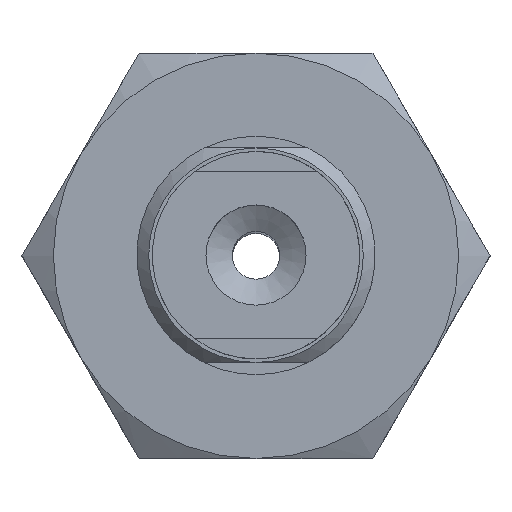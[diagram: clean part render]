
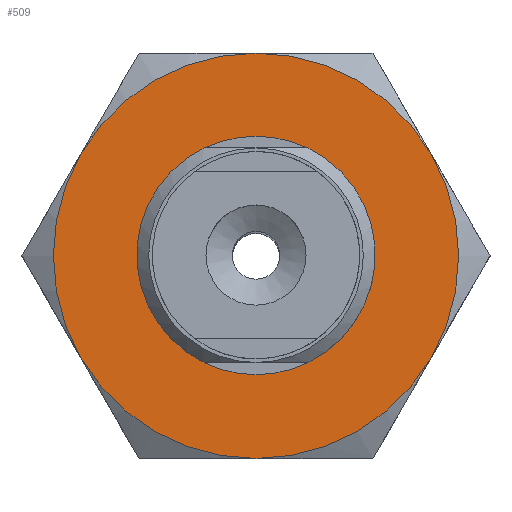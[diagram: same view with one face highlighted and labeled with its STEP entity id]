
A CAD part, top view. The second image highlights one B-rep face of the part: STEP entity #509.
In plain terms, the highlighted planar face has unit normal (0, 0, 1).
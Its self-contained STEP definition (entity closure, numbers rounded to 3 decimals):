
#509=ADVANCED_FACE('',(#718,#719),#720,.T.);
#718=FACE_BOUND('',#1015,.T.);
#719=FACE_OUTER_BOUND('',#1016,.T.);
#720=PLANE('',#1017);
#1015=EDGE_LOOP('',(#1606));
#1016=EDGE_LOOP('',(#1607,#1608,#1609,#1610,#1611,#1612));
#1017=AXIS2_PLACEMENT_3D('',#1613,#1614,#1615);
#1606=ORIENTED_EDGE('',*,*,#2058,.F.);
#1607=ORIENTED_EDGE('',*,*,#2033,.F.);
#1608=ORIENTED_EDGE('',*,*,#2048,.F.);
#1609=ORIENTED_EDGE('',*,*,#2052,.F.);
#1610=ORIENTED_EDGE('',*,*,#2056,.F.);
#1611=ORIENTED_EDGE('',*,*,#2035,.F.);
#1612=ORIENTED_EDGE('',*,*,#2028,.F.);
#1613=CARTESIAN_POINT('',(-9.815,-8.5,4.0));
#1614=DIRECTION('',(0.0,0.0,1.0));
#1615=DIRECTION('',(1.0,0.0,0.0));
#2028=EDGE_CURVE('',#2301,#2288,#2303,.T.);
#2033=EDGE_CURVE('',#2310,#2301,#2313,.T.);
#2035=EDGE_CURVE('',#2288,#2298,#2315,.T.);
#2048=EDGE_CURVE('',#2331,#2310,#2336,.T.);
#2052=EDGE_CURVE('',#2322,#2331,#2340,.T.);
#2056=EDGE_CURVE('',#2298,#2322,#2345,.T.);
#2058=EDGE_CURVE('',#2347,#2347,#2348,.T.);
#2288=VERTEX_POINT('',#2776);
#2298=VERTEX_POINT('',#2803);
#2301=VERTEX_POINT('',#2814);
#2303=CIRCLE('',#2820,8.5);
#2310=VERTEX_POINT('',#2835);
#2313=CIRCLE('',#2842,8.5);
#2315=CIRCLE('',#2848,8.5);
#2322=VERTEX_POINT('',#2864);
#2331=VERTEX_POINT('',#2890);
#2336=CIRCLE('',#2907,8.5);
#2340=CIRCLE('',#2916,8.5);
#2345=CIRCLE('',#2921,8.5);
#2347=VERTEX_POINT('',#2927);
#2348=CIRCLE('',#2928,4.5);
#2776=CARTESIAN_POINT('',(-7.361,4.25,4.0));
#2803=CARTESIAN_POINT('',(0.,8.5,4.0));
#2814=CARTESIAN_POINT('',(-7.361,-4.25,4.0));
#2820=AXIS2_PLACEMENT_3D('',#3256,#3257,#3258);
#2835=CARTESIAN_POINT('',(0.,-8.5,4.0));
#2842=AXIS2_PLACEMENT_3D('',#3262,#3263,#3264);
#2848=AXIS2_PLACEMENT_3D('',#3265,#3266,#3267);
#2864=CARTESIAN_POINT('',(7.361,4.25,4.0));
#2890=CARTESIAN_POINT('',(7.361,-4.25,4.0));
#2907=AXIS2_PLACEMENT_3D('',#3273,#3274,#3275);
#2916=AXIS2_PLACEMENT_3D('',#3280,#3281,#3282);
#2921=AXIS2_PLACEMENT_3D('',#3292,#3293,#3294);
#2927=CARTESIAN_POINT('',(0.0,-4.5,4.0));
#2928=AXIS2_PLACEMENT_3D('',#3295,#3296,#3297);
#3256=CARTESIAN_POINT('',(0.,0.,4.0));
#3257=DIRECTION('',(0.,0.,-1.0));
#3258=DIRECTION('',(0.866,0.5,0.));
#3262=CARTESIAN_POINT('',(0.,0.,4.0));
#3263=DIRECTION('',(0.,0.,-1.0));
#3264=DIRECTION('',(0.866,0.5,0.));
#3265=CARTESIAN_POINT('',(0.,0.,4.0));
#3266=DIRECTION('',(0.,0.,-1.0));
#3267=DIRECTION('',(0.866,0.5,0.));
#3273=CARTESIAN_POINT('',(0.,0.,4.0));
#3274=DIRECTION('',(0.,0.,-1.0));
#3275=DIRECTION('',(0.866,0.5,0.));
#3280=CARTESIAN_POINT('',(0.,0.,4.0));
#3281=DIRECTION('',(0.,0.,-1.0));
#3282=DIRECTION('',(0.866,0.5,0.));
#3292=CARTESIAN_POINT('',(0.,0.,4.0));
#3293=DIRECTION('',(0.,0.,-1.0));
#3294=DIRECTION('',(0.866,0.5,0.));
#3295=CARTESIAN_POINT('',(0.0,0.0,4.0));
#3296=DIRECTION('',(0.0,0.,1.0));
#3297=DIRECTION('',(0.0,-1.0,0.));
